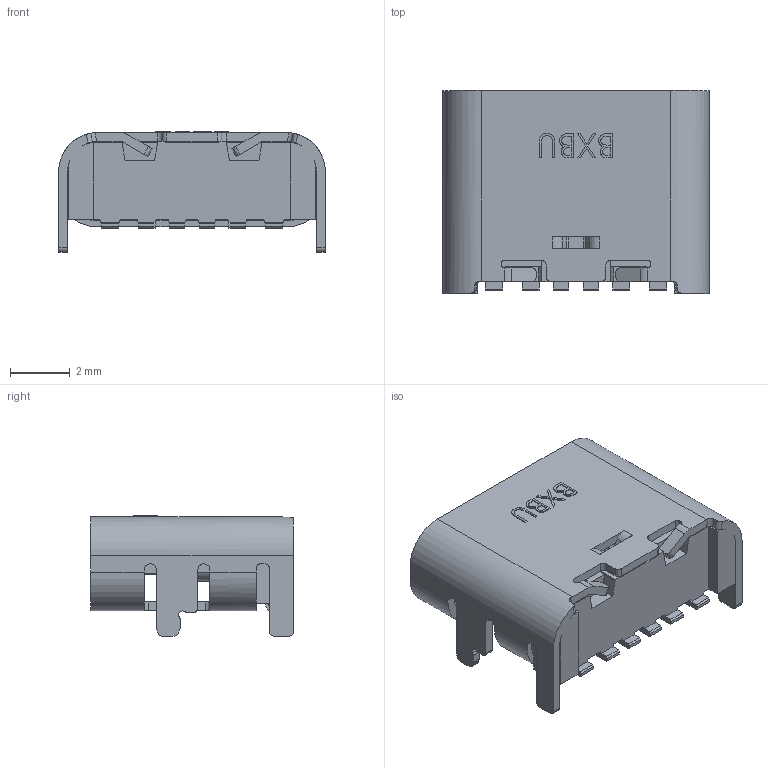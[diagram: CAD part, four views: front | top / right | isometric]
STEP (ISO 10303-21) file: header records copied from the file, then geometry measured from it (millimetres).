
FILE_DESCRIPTION (( 'STEP AP203' ), '1' );
FILE_NAME ('6PIN-MOLDING________________________.STEP', '2026-09-17T07:19:20', ( '' ), ( '' ), 'SwSTEP 2.0', 'SolidWorks 2024', '' );
FILE_SCHEMA (( 'CONFIG_CONTROL_DESIGN' ));
Length unit declared in the file: millimetre
Products named in the file (1): 6PIN-MOLDING________________________
Bounding box: 8.94 x 6.8 x 4.04 mm (x, y, z)
Volume: 89.9 mm3; surface area: 433.4 mm2
Topology: 1 solids, 1 shells, 714 faces, 2115 edges, 1397 vertices
Faces by surface type: plane 534, cylinder 145, bspline 25, cone 10
Entity records: 25230 total; most frequent: CARTESIAN_POINT 6016, ORIENTED_EDGE 4230, DIRECTION 3687, EDGE_CURVE 2115, VECTOR 1719, LINE 1719, VERTEX_POINT 1397, AXIS2_PLACEMENT_3D 984
